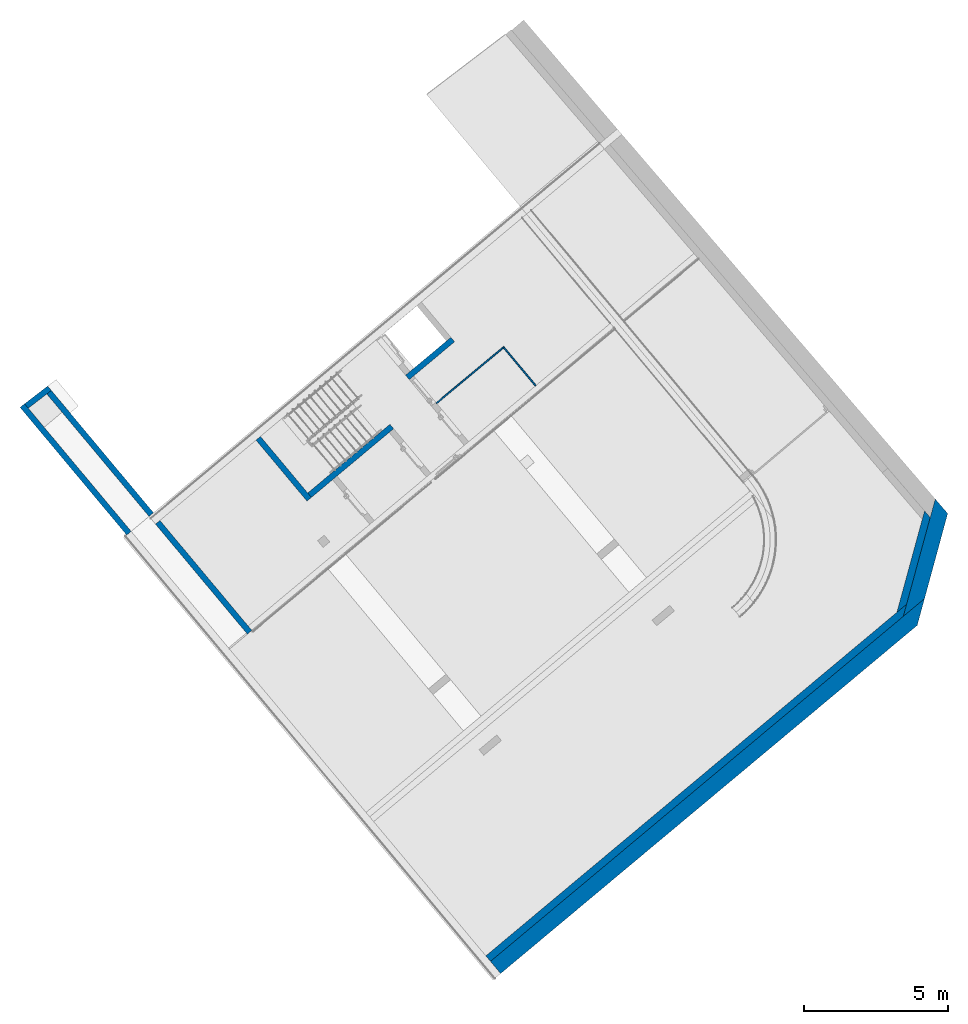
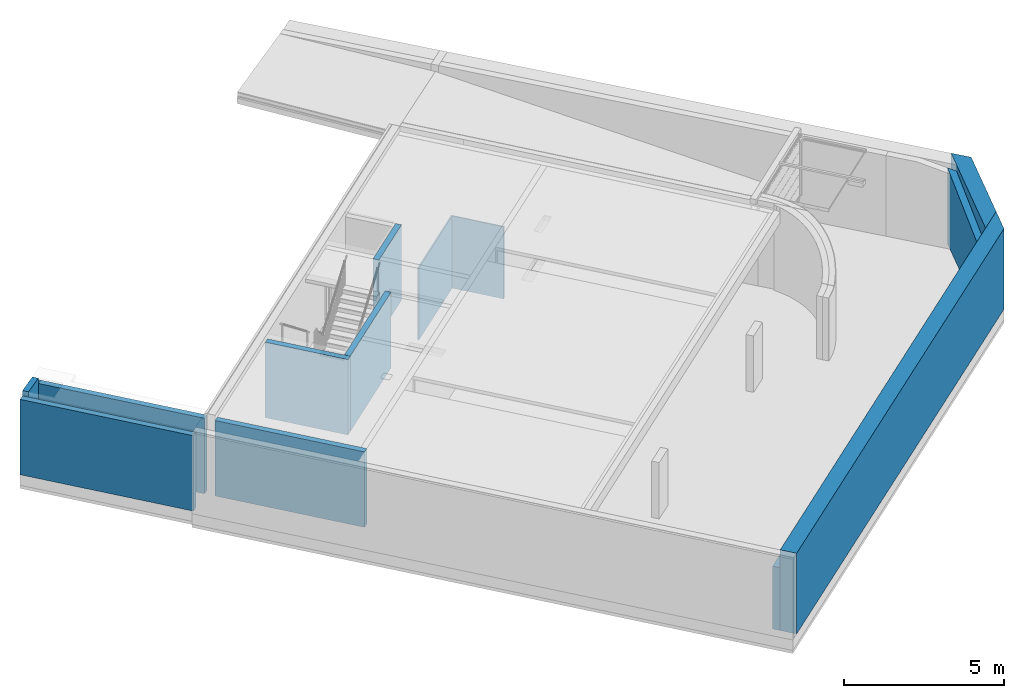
# One storey, part 6 of 17: 13 walls.
"""IFC4 building model written with IfcOpenShell, lengths in metres."""

import ifcopenshell
import ifcopenshell.guid

model = None  # the IFC model being written
_history = None  # IfcOwnerHistory: only IFC2X3 demands one
_inside = {}  # id of a spatial element -> (the spatial element, [elements in it])
_under = {}  # id of a project, library or spatial element -> (it, [spatial elements below it])
_declared = {}  # id of a project -> (the project, [libraries it declares])
_typed = {}  # id of a type object -> (the type object, [elements of that type])
_made_of = {}  # id of a material, layer set ... -> (it, [elements and type objects made of it])


def new_model(schema):
    """Start an empty IFC model of exactly this schema.

    Asked for "IFC4X3", IfcOpenShell would pick the latest addendum, in which some entities
    have other attributes; the version numbers below select the first issue.
    IFC2X3 requires an IfcOwnerHistory on every rooted entity: one is made here for all.
    """
    global model, _history
    if schema == "IFC4X3":
        model = ifcopenshell.file(schema_version=(4, 3, 0, 0))
    else:
        model = ifcopenshell.file(schema=schema)
    _inside.clear()
    _under.clear()
    _declared.clear()
    _typed.clear()
    _made_of.clear()
    _history = None
    if model.schema == "IFC2X3":
        org = make("IfcOrganization", Name="unknown")
        user = make(
            "IfcPersonAndOrganization",
            ThePerson=make("IfcPerson", FamilyName="unknown"),
            TheOrganization=org,
        )
        app = make(
            "IfcApplication",
            ApplicationDeveloper=org,
            Version="unknown",
            ApplicationFullName="unknown",
            ApplicationIdentifier="unknown",
        )
        _history = make(
            "IfcOwnerHistory",
            OwningUser=user,
            OwningApplication=app,
            ChangeAction="ADDED",
            CreationDate=0,
        )
    return model


def make(cls, **values):
    """One entity of the class cls with the attributes given. An attribute that is None is left unset."""
    return model.create_entity(
        cls, **{name: value for name, value in values.items() if value is not None}
    )


def entity(cls, *values):
    """Any entity or typed value of the class cls, its attributes in the order of the schema. None: left unset."""
    e = model.create_entity(cls)
    for i, value in enumerate(values):
        if value is not None:
            e[i] = value
    return e


def rooted(cls, **values):
    """An entity with a GlobalId (a new one), such as an element, a storey or a relation."""
    return make(cls, GlobalId=ifcopenshell.guid.new(), OwnerHistory=_history, **values)


def si_unit(unit_type, name, prefix=None):
    """IfcSIUnit, for example si_unit("LENGTHUNIT", "METRE", prefix="MILLI")."""
    return make("IfcSIUnit", UnitType=unit_type, Prefix=prefix, Name=name)


def converted_unit(unit_type, name, factor, base, dimensions=None, offset=None):
    """IfcConversionBasedUnit, such as the inch: factor (a typed value) times the base unit."""
    return make(
        "IfcConversionBasedUnit"
        if offset is None
        else "IfcConversionBasedUnitWithOffset",
        ConversionOffset=offset,
        Dimensions=None
        if dimensions is None
        else entity("IfcDimensionalExponents", *dimensions),
        UnitType=unit_type,
        Name=name,
        ConversionFactor=make(
            "IfcMeasureWithUnit", ValueComponent=factor, UnitComponent=base
        ),
    )


def derived_unit(unit_type, elements):
    """IfcDerivedUnit: a product of units, each with its exponent."""
    return make(
        "IfcDerivedUnit",
        Elements=[
            make("IfcDerivedUnitElement", Unit=unit, Exponent=power)
            for unit, power in elements
        ],
        UnitType=unit_type,
    )


def assignment(units):
    """IfcUnitAssignment: the units of a project."""
    return None if units is None else make("IfcUnitAssignment", Units=units)


def point(xyz):
    """IfcCartesianPoint."""
    return None if xyz is None else make("IfcCartesianPoint", Coordinates=xyz)


def direction(xyz):
    """IfcDirection."""
    return None if xyz is None else make("IfcDirection", DirectionRatios=xyz)


def frame(location, z_axis=None, x_axis=None):
    """IfcAxis2Placement3D, a coordinate frame: its origin and axes. An axis left out is left unset."""
    return make(
        "IfcAxis2Placement3D",
        Location=point(location),
        Axis=direction(z_axis),
        RefDirection=direction(x_axis),
    )


def origin_with_axes():
    """The frame at (0, 0, 0) with the z axis (0, 0, 1) and the x axis (1, 0, 0) written out."""
    return frame((0.0, 0.0, 0.0), z_axis=(0.0, 0.0, 1.0), x_axis=(1.0, 0.0, 0.0))


def place(relative_to, where):
    """IfcLocalPlacement: puts the frame where relative to a parent placement (None: the world)."""
    return make(
        "IfcLocalPlacement", PlacementRelTo=relative_to, RelativePlacement=where
    )


def context(
    kind, dimensions, precision=None, world=None, true_north=None, identifier=None
):
    """IfcGeometricRepresentationContext, for example the 3D "Model" context."""
    return make(
        "IfcGeometricRepresentationContext",
        ContextIdentifier=identifier,
        ContextType=kind,
        CoordinateSpaceDimension=dimensions,
        Precision=precision,
        WorldCoordinateSystem=world,
        TrueNorth=true_north,
    )


def subcontext(parent, identifier, kind, view, scale=None):
    """IfcGeometricRepresentationSubContext, for example "Body" below "Model"."""
    return make(
        "IfcGeometricRepresentationSubContext",
        ContextIdentifier=identifier,
        ContextType=kind,
        ParentContext=parent,
        TargetScale=scale,
        TargetView=view,
    )


def project(units=None, contexts=None):
    """IfcProject with its units and contexts."""
    return rooted(
        "IfcProject",
        Name="project",
        RepresentationContexts=contexts,
        UnitsInContext=assignment(units),
    )


def spatial(cls, under=None, at=None, **own):
    """A site, building, storey or space (cls), placed at a placement, below another one or the project."""
    s = rooted(cls, ObjectPlacement=at, **own)
    if under is not None:
        _under.setdefault(under.id(), (under, []))[1].append(s)
    return s


def point_list(points):
    """IfcCartesianPointList2D or 3D."""
    cls = (
        "IfcCartesianPointList2D" if len(points[0]) == 2 else "IfcCartesianPointList3D"
    )
    return make(cls, CoordList=points)


def polygons(points, faces, closed=None, point_numbers=None):
    """IfcPolygonalFaceSet: a face is its outer loop, then its inner loops; points numbered from 1."""
    made = []
    for loops in faces:
        if len(loops) == 1:
            made.append(make("IfcIndexedPolygonalFace", CoordIndex=loops[0]))
        else:
            made.append(
                make(
                    "IfcIndexedPolygonalFaceWithVoids",
                    CoordIndex=loops[0],
                    InnerCoordIndices=loops[1:],
                )
            )
    return make(
        "IfcPolygonalFaceSet",
        Coordinates=point_list(points),
        Closed=closed,
        Faces=made,
        PnIndex=point_numbers,
    )


def shape(context_of_items, identifier, shape_type, items):
    """IfcShapeRepresentation: the items that make up one representation, for example the "Body"."""
    return make(
        "IfcShapeRepresentation",
        ContextOfItems=context_of_items,
        RepresentationIdentifier=identifier,
        RepresentationType=shape_type,
        Items=items,
    )


def material(Name=None, Category=None):
    """IfcMaterial."""
    return make("IfcMaterial", Name=Name, Category=Category)


def made_of(thing, what):
    """Note that an element or type object is made of a material, layer set ...; save() writes the relation."""
    if what is not None:
        _made_of.setdefault(what.id(), (what, []))[1].append(thing)
    return thing


def type_object(cls, material=None, **own):
    """A type object (cls), such as IfcWallType, which elements share."""
    return made_of(rooted(cls, **own), material)


def element(
    cls,
    number,
    at=None,
    inside=None,
    cuts=None,
    type_object=None,
    material=None,
    context=None,
    identifier="Body",
    shape_type=None,
    held_by="IfcProductDefinitionShape",
    body=None,
    shapes=None,
    **own,
):
    """One element of the class cls, such as IfcWall. Its Tag is "e" and its number.

    at: its placement. inside: the storey or other place that contains it. cuts: it is an
    opening in that element (IfcRelVoidsElement). A single representation is given by context,
    identifier, shape_type and body (its items); several are given by shapes. held_by: the class
    of the entity that holds the representations. save() writes the other relations.
    """
    e = rooted(cls, Tag="e%d" % number, ObjectPlacement=at, **own)
    if body is not None:
        shapes = [shape(context, identifier, shape_type, body)]
    if shapes is not None:
        e.Representation = make(held_by, Representations=shapes)
    if inside is not None:
        _inside.setdefault(inside.id(), (inside, []))[1].append(e)
    if cuts is not None:
        rooted(
            "IfcRelVoidsElement", RelatingBuildingElement=cuts, RelatedOpeningElement=e
        )
    if type_object is not None:
        _typed.setdefault(type_object.id(), (type_object, []))[1].append(e)
    return made_of(e, material)


def aggregate(whole, parts):
    """IfcRelAggregates: a whole, such as a stair, and the parts it consists of."""
    return rooted("IfcRelAggregates", RelatingObject=whole, RelatedObjects=parts)


def save(model, path):
    """Write the relations noted so far, then the file.

    IfcRelAggregates (storeys below a building ...), IfcRelContainedInSpatialStructure (elements
    in a storey), IfcRelDefinesByType, IfcRelAssociatesMaterial and IfcRelDeclares: one each for
    every whole, place, type object, material and project.
    """
    for whole, parts in _under.values():
        aggregate(whole, parts)
    for where, things in _inside.values():
        rooted(
            "IfcRelContainedInSpatialStructure",
            RelatedElements=things,
            RelatingStructure=where,
        )
    for kind, things in _typed.values():
        rooted("IfcRelDefinesByType", RelatedObjects=things, RelatingType=kind)
    for what, things in _made_of.values():
        rooted("IfcRelAssociatesMaterial", RelatedObjects=things, RelatingMaterial=what)
    for by, libraries in _declared.values():
        rooted("IfcRelDeclares", RelatingContext=by, RelatedDefinitions=libraries)
    model.write(path)


model = new_model("IFC4")

# Units and contexts
model_context = context("Model", 3, precision=1e-05, world=origin_with_axes(), true_north=direction((0.0, 1.0)))
body_context = subcontext(model_context, "Body", "Model", "MODEL_VIEW")
ifc_project = project(units=[si_unit("LENGTHUNIT", "METRE"), si_unit("AREAUNIT", "SQUARE_METRE"), si_unit("VOLUMEUNIT", "CUBIC_METRE"), converted_unit("PLANEANGLEUNIT", "DEGREE", entity("IfcPlaneAngleMeasure", 0.0174532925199), si_unit("PLANEANGLEUNIT", "RADIAN"), dimensions=[0, 0, 0, 0, 0, 0, 0]), converted_unit("TIMEUNIT", "Year", entity("IfcTimeMeasure", 31556926.0), si_unit("TIMEUNIT", "SECOND"), dimensions=[0, 0, 1, 0, 0, 0, 0]), si_unit("MASSUNIT", "GRAM", prefix="KILO"), si_unit("THERMODYNAMICTEMPERATUREUNIT", "DEGREE_CELSIUS"), si_unit("LUMINOUSINTENSITYUNIT", "LUMEN"), si_unit("ENERGYUNIT", "JOULE", prefix="MEGA"), derived_unit("THERMALCONDUCTANCEUNIT", [(si_unit("POWERUNIT", "WATT"), 1), (si_unit("LENGTHUNIT", "METRE"), -1), (si_unit("THERMODYNAMICTEMPERATUREUNIT", "KELVIN"), -1)]), derived_unit("SPECIFICHEATCAPACITYUNIT", [(si_unit("ENERGYUNIT", "JOULE"), 1), (si_unit("MASSUNIT", "GRAM", prefix="KILO"), -1), (si_unit("THERMODYNAMICTEMPERATUREUNIT", "KELVIN"), -1)]), derived_unit("MASSDENSITYUNIT", [(si_unit("MASSUNIT", "GRAM", prefix="KILO"), 1), (si_unit("VOLUMEUNIT", "CUBIC_METRE"), -1)])], contexts=[model_context])

# Site, building, storey
site_placement = place(None, frame((-0.00153261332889, -0.00661245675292, 0.0), z_axis=(0.0, 0.0, 1.0), x_axis=(1.0, 0.0, 0.0)))
site = spatial("IfcSite", under=ifc_project, at=site_placement, Name="Site", CompositionType="ELEMENT")
building_placement = place(site_placement, origin_with_axes())
building = spatial("IfcBuilding", under=site, at=building_placement, Name="Building", CompositionType="ELEMENT")
storey_placement = place(building_placement, frame((0.0, 0.0, -3.3), z_axis=(0.0, 0.0, 1.0), x_axis=(1.0, 0.0, 0.0)))
storey = spatial("IfcBuildingStorey", under=building, at=storey_placement, Name="UG1", CompositionType="ELEMENT", Elevation=-3.3)

# Walls
ifc_material_1 = material(Name="Stahlbeton Wand")
wall_type_1 = type_object("IfcWallType", Name="Stahlbeton Wand 250", PredefinedType="NOTDEFINED")
wall_1_placement = place(storey_placement, frame((18.2735300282, 16.4220240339, 0.0), z_axis=(0.0, 0.0, 1.0), x_axis=(0.262982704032, 0.964800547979, 0.0)))
element("IfcWall", 1, at=wall_1_placement, inside=storey, type_object=wall_type_1, material=ifc_material_1, Name="Wand-004", PredefinedType="NOTDEFINED", context=body_context, shape_type="Tessellation", body=[
    polygons([(3.48245363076, -0.250000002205, 2.84631194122), (3.65097897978, 0.0, 2.90379906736), (0.0, 0.0, 2.49711780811), (1.36267885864e-10, -0.250000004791, 2.45840266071), (3.48245363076, -0.250000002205, 0.0), (3.65097897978, 0.0, 0.0), (0.0, 0.0, 0.0), (0.0, 0.0, 2.4), (0.0, -0.25, 2.4), (0.358823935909, -0.25, 2.4), (0.358823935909, -0.25, 0.0)], [[[1, 2, 3, 4]], [[1, 5, 6, 2]], [[6, 7, 8, 3, 2]], [[3, 8, 9, 4]], [[1, 4, 9, 10, 11, 5]], [[5, 11, 7, 6]], [[11, 10, 8, 7]], [[10, 9, 8]]], closed=True),
])
wall_2_placement = place(storey_placement, frame((3.9972203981, 4.49061026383, 0.0), z_axis=(0.0, 0.0, 1.0), x_axis=(0.767308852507, 0.64127772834, 0.0)))
element("IfcWall", 2, at=wall_2_placement, inside=storey, type_object=wall_type_1, material=ifc_material_1, Name="Wand-003", PredefinedType="NOTDEFINED", context=body_context, shape_type="Tessellation", body=[
    polygons([(19.0430153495, 0.0, 0.0), (18.6841914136, -0.25, 0.0), (-2.22222971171e-05, -0.25, 0.0), (0.0, 0.0, 0.0), (19.0430153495, 0.0, 2.4), (18.6841914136, -0.25, 2.4), (-2.22222971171e-05, -0.25, 2.4), (0.0, 0.0, 2.4)], [[[1, 2, 3, 4]], [[2, 1, 5, 6]], [[2, 6, 7, 3]], [[8, 4, 3, 7]], [[5, 1, 4, 8]], [[6, 5, 8, 7]]], closed=True),
])
wall_type_2 = type_object("IfcWallType", Name="Stahlbeton Wand 200", PredefinedType="NOTDEFINED")
wall_3_placement = place(storey_placement, frame((1.20911513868, 24.656867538, 0.0), z_axis=(0.0, 0.0, 1.0), x_axis=(0.767365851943, 0.641209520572, 0.0)))
element("IfcWall", 3, at=wall_3_placement, inside=storey, type_object=wall_type_2, material=ifc_material_1, Name="Wand-010", PredefinedType="NOTDEFINED", context=body_context, shape_type="Tessellation", body=[
    polygons([(2.05077465, -0.2, 2.88), (2.05076034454, 0.0, 2.88), (0.0, 0.0, 2.88), (0.0, -0.2, 2.88), (2.05077465, -0.2, 0.0), (2.05076034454, 0.0, 0.0), (0.0, 0.0, 0.0), (0.0, -0.2, 0.0)], [[[1, 2, 3, 4]], [[2, 1, 5, 6]], [[2, 6, 7, 3]], [[8, 4, 3, 7]], [[5, 1, 4, 8]], [[6, 5, 8, 7]]], closed=True),
])
wall_4_placement = place(storey_placement, frame((-7.47588571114, 19.485031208, 0.0), z_axis=(0.0, 0.0, 1.0), x_axis=(0.641191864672, -0.767380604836, 0.0)))
element("IfcWall", 4, at=wall_4_placement, inside=storey, type_object=wall_type_2, material=ifc_material_1, Name="Wand-006", PredefinedType="NOTDEFINED", context=body_context, shape_type="Tessellation", body=[
    polygons([(0.0, 0.2, 0.0), (4.97723933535, 0.2, 0.0), (4.97723933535, 0.0, 0.0), (0.0, 0.0, 0.0), (0.0, 0.2, 2.88), (4.97723933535, 0.2, 2.88), (4.97723933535, 0.0, 2.88), (0.0, 0.0, 2.88)], [[[1, 2, 3, 4]], [[5, 6, 2, 1]], [[3, 2, 6, 7]], [[4, 3, 7, 8]], [[5, 1, 4, 8]], [[8, 7, 6, 5]]], closed=True),
])
wall_5_placement = place(storey_placement, frame((-2.21530068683, 20.2847748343, 0.0), z_axis=(0.0, 0.0, 1.0), x_axis=(0.767365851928, 0.64120952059, 0.0)))
element("IfcWall", 5, at=wall_5_placement, inside=storey, type_object=wall_type_2, material=ifc_material_1, Name="Wand-004", PredefinedType="NOTDEFINED", context=body_context, shape_type="Tessellation", body=[
    polygons([(3.92113772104, 0.2, 0.0), (3.92113772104, 0.0, 0.0), (0.2, 0.0, 0.0), (0.200000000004, 0.2, 0.0), (3.92113772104, 0.2, 2.88), (3.92113772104, 0.0, 2.88), (0.2, 0.0, 2.88), (0.200000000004, 0.2, 2.88)], [[[1, 2, 3, 4]], [[2, 1, 5, 6]], [[2, 6, 7, 3]], [[8, 4, 3, 7]], [[5, 1, 4, 8]], [[6, 5, 8, 7]]], closed=True),
])
wall_6_placement = place(storey_placement, frame((-4.2089587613, 22.6706800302, 0.0), z_axis=(0.0, 0.0, 1.0), x_axis=(0.641209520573, -0.767365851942, 0.0)))
element("IfcWall", 6, at=wall_6_placement, inside=storey, type_object=wall_type_2, material=ifc_material_1, Name="Wand-003", PredefinedType="NOTDEFINED", context=body_context, shape_type="Tessellation", body=[
    polygons([(3.10921471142, 0.2, 0.0), (3.10921471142, 0.0, 0.0), (0.349999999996, 0.0, 0.0), (0.350000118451, 0.2, 0.0), (3.10921471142, 0.2, 2.88), (3.10921471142, 0.0, 2.88), (0.349999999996, 0.0, 2.88), (0.350000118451, 0.2, 2.88)], [[[1, 2, 3, 4]], [[2, 1, 5, 6]], [[2, 6, 7, 3]], [[8, 4, 3, 7]], [[5, 1, 4, 8]], [[6, 5, 8, 7]]], closed=True),
])
wall_7_placement = place(storey_placement, frame((-11.2521443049, 24.004259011, 0.0), z_axis=(0.0, 0.0, 1.0), x_axis=(0.64120952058, -0.767365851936, 0.0)))
element("IfcWall", 7, at=wall_7_placement, inside=storey, type_object=wall_type_2, material=ifc_material_1, Name="Wand-003", PredefinedType="NOTDEFINED", context=body_context, shape_type="Tessellation", body=[
    polygons([(0.00811471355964, 0.2, 2.88), (1.02605691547, 0.199999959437, 2.88), (5.5394980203, 0.199999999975, 2.88), (5.53949802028, 0.2, 0.0), (0.00811471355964, 0.2, 0.0), (0.0, 9.45799172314e-09, 2.88), (0.826056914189, 1.06634736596e-08, 2.88), (5.53949802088, 0.0, 2.88), (5.53949790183, 0.0, 0.0), (0.0, 0.0, 0.0)], [[[1, 2, 3, 4, 5]], [[6, 7, 8, 3, 2, 1]], [[4, 3, 8, 9]], [[5, 4, 9, 10]], [[10, 6, 1, 5]], [[8, 7, 6, 10, 9]]], closed=True),
])
wall_8_placement = place(storey_placement, frame((-11.8951769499, 23.5097960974, 0.0), z_axis=(0.0, 0.0, 1.0), x_axis=(0.792729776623, 0.609573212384, 0.0)))
element("IfcWall", 8, at=wall_8_placement, inside=storey, type_object=wall_type_2, material=ifc_material_1, Name="Wand-003", PredefinedType="NOTDEFINED", context=body_context, shape_type="Tessellation", body=[
    polygons([(1.00321231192, 0.2, 0.0), (1.00321231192, 0.199999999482, 2.88), (1.01132702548, 0.0, 2.88), (1.01132702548, 0.0, 0.0), (0.803047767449, 0.199999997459, 3.08), (0.803047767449, 0.199999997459, 2.88), (-0.00811471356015, 0.2, 0.0), (-0.00811471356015, 0.199999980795, 2.88), (-0.00314913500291, 0.199999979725, 2.88), (-0.00314913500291, 0.199999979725, 3.08), (0.811162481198, 0.0, 2.88), (0.811162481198, 0.0, 3.08), (0.00496557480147, 0.0, 3.08), (0.00496557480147, 0.0, 2.88), (0.0, 0.0, 2.88), (0.0, 0.0, 0.0)], [[[1, 2, 3, 4]], [[5, 6, 2, 1, 7, 8, 9, 10]], [[6, 11, 3, 2]], [[3, 11, 12, 13, 14, 15, 16, 4]], [[7, 1, 4, 16]], [[6, 5, 12, 11]], [[16, 15, 8, 7]], [[8, 15, 14, 9]], [[9, 14, 13, 10]], [[13, 12, 5, 10]]], closed=True),
])
wall_9_placement = place(storey_placement, frame((-8.32211210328, 19.233739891, 0.0), z_axis=(0.0, 0.0, 1.0), x_axis=(-0.641209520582, 0.767365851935, 0.0)))
element("IfcWall", 9, at=wall_9_placement, inside=storey, type_object=wall_type_2, material=ifc_material_1, Name="Wand-002", PredefinedType="NOTDEFINED", context=body_context, shape_type="Tessellation", body=[
    polygons([(5.7725472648, 0.0, 0.0), (5.77254724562, 7.78592301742e-10, 2.88), (-1.12168514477e-08, 0.0, 2.88), (0.0, 0.0, 0.0), (5.78066197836, 0.2, 0.0), (5.7806620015, 0.199999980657, 2.88), (-1.17975886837e-08, 0.199999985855, 2.88), (0.0, 0.2, 0.0)], [[[1, 2, 3, 4]], [[5, 6, 2, 1]], [[6, 7, 3, 2]], [[4, 3, 7, 8]], [[8, 5, 1, 4]], [[8, 7, 6, 5]]], closed=True),
])
ifc_material_2 = material(Name="Aluminium")
wall_type_3 = type_object("IfcWallType", Name="Aluminium 50", PredefinedType="NOTDEFINED")
wall_10_placement = place(storey_placement, frame((4.60874776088, 25.5946881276, 0.0), z_axis=(0.0, 0.0, 1.0), x_axis=(0.641209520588, -0.767365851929, 0.0)))
element("IfcWall", 10, at=wall_10_placement, inside=storey, type_object=wall_type_3, material=ifc_material_2, Name="Wand-009", PredefinedType="NOTDEFINED", context=body_context, shape_type="Tessellation", body=[
    polygons([(1.7167993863, 0.05, 0.0), (1.7167993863, 0.0, 0.0), (0.0, 0.0, 0.0), (0.0, 0.05, 0.0), (1.7167993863, 0.05, 2.75), (1.7167993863, 0.0, 2.75), (0.0, 0.0, 2.75), (0.0, 0.05, 2.75)], [[[1, 2, 3, 4]], [[2, 1, 5, 6]], [[2, 6, 7, 3]], [[8, 4, 3, 7]], [[5, 1, 4, 8]], [[6, 5, 8, 7]]], closed=True),
])
wall_11_placement = place(storey_placement, frame((2.29889251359, 23.6645772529, 0.0), z_axis=(0.0, 0.0, 1.0), x_axis=(0.767365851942, 0.641209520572, 0.0)))
element("IfcWall", 11, at=wall_11_placement, inside=storey, type_object=wall_type_3, material=ifc_material_2, Name="Wand-008", PredefinedType="NOTDEFINED", context=body_context, shape_type="Tessellation", body=[
    polygons([(3.06010950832, 0.05, 0.0), (3.06010950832, 0.0, 0.0), (0.0, 0.0, 0.0), (0.0, 0.05, 0.0), (3.06010950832, 0.05, 2.75), (3.06010950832, 0.0, 2.75), (0.0, 0.0, 2.75), (0.0, 0.05, 2.75)], [[[1, 2, 3, 4]], [[2, 1, 5, 6]], [[2, 6, 7, 3]], [[8, 4, 3, 7]], [[5, 1, 4, 8]], [[6, 5, 8, 7]]], closed=True),
])
ifc_material_3 = material(Name="Stahlbeton Wand Garage")
wall_type_4 = type_object("IfcWallType", Name="Stahlbeton Wand Garage 550", PredefinedType="NOTDEFINED")
wall_12_placement = place(storey_placement, frame((18.4940853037, 16.2805388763, 0.0), z_axis=(0.0, 0.0, 1.0), x_axis=(0.26298270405, 0.964800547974, 0.0)))
element("IfcWall", 12, at=wall_12_placement, inside=storey, type_object=wall_type_4, material=ifc_material_3, Name="Wand-003", PredefinedType="NOTDEFINED", context=body_context, shape_type="Tessellation", body=[
    polygons([(3.85290030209, -0.55, 3.08), (4.22500732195, 0.0, 3.08), (0.0, 0.0, 3.08), (0.78940916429, -0.55, 3.08), (3.85290030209, -0.55, 0.0), (4.22500732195, 0.0, 0.0), (0.0, 0.0, 0.0), (0.78940916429, -0.55, 0.0)], [[[1, 2, 3, 4]], [[2, 1, 5, 6]], [[2, 6, 7, 3]], [[8, 4, 3, 7]], [[5, 1, 4, 8]], [[6, 5, 8, 7]]], closed=True),
])
wall_13_placement = place(storey_placement, frame((4.15749790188, 4.29879857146, 0.0), z_axis=(0.0, 0.0, 1.0), x_axis=(0.767310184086, 0.64127613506, 0.0)))
element("IfcWall", 13, at=wall_13_placement, inside=storey, type_object=wall_type_4, material=ifc_material_3, Name="Wand-002", PredefinedType="NOTDEFINED", context=body_context, shape_type="Tessellation", body=[
    polygons([(18.8569202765, -0.55, 3.08), (19.6463294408, 0.0, 3.08), (0.0, 0.0, 3.08), (-4.77468328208e-05, -0.55, 3.08), (18.8569202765, -0.55, 0.0), (19.6463294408, 0.0, 0.0), (0.0, 0.0, 0.0), (-4.77468328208e-05, -0.55, 0.0)], [[[1, 2, 3, 4]], [[2, 1, 5, 6]], [[2, 6, 7, 3]], [[8, 4, 3, 7]], [[5, 1, 4, 8]], [[6, 5, 8, 7]]], closed=True),
])

save(model, "model.ifc")
